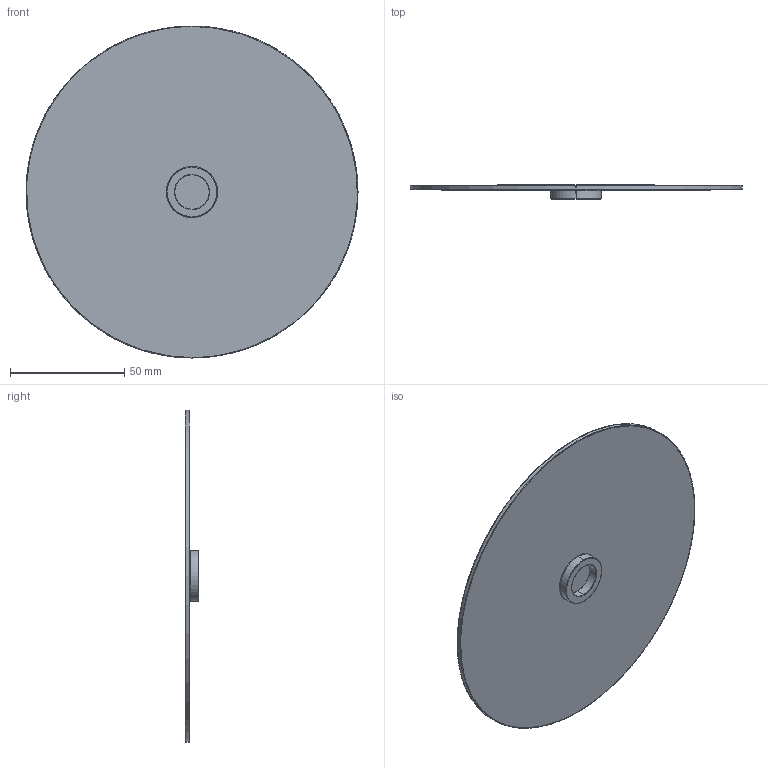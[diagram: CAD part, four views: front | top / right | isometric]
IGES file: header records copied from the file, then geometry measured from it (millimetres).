
Start section: SolidWorks IGES file using analytic representation for surfaces
Global section: file name: C:\Users\danielet\Desktop\ISMAIL\CHAMALEON\DISCOS CHAMALEON\CHAMALEON-K0003540-3D\CHAMALEON-K0003540-3D.IGS; native system: SolidWorks 2018; preprocessor: SolidWorks 2018; author: danielet; date: 230321.120551; units: millimetre
Bounding box: 145 x 6 x 145 mm (x, y, z)
Surface area: 34307.9 mm2 (no closed solid volume)
Topology: 0 solids, 0 shells, 20 faces, 320 edges, 320 vertices
Faces by surface type: bspline 14, revolution 6
